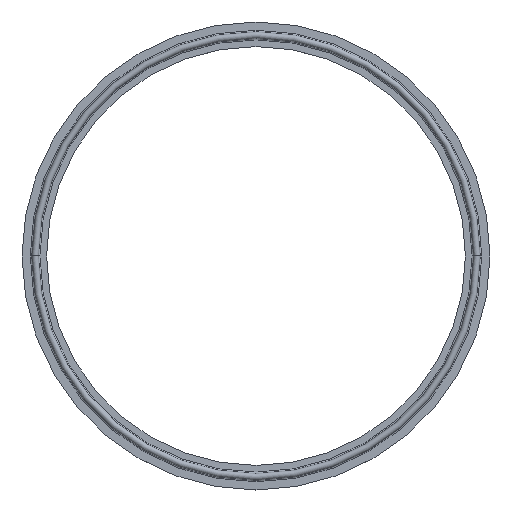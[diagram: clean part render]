
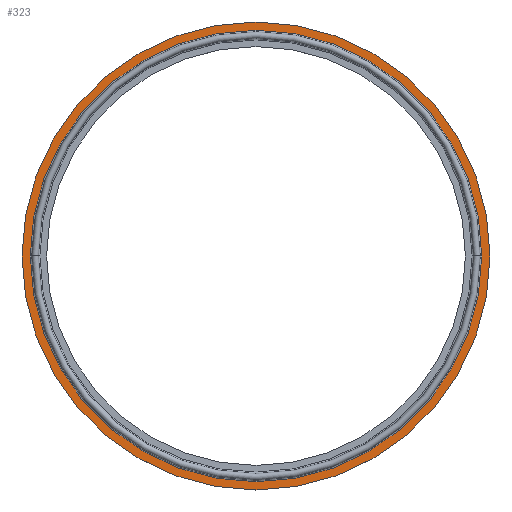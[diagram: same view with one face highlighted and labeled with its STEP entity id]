
A CAD part, top view. The second image highlights one B-rep face of the part: STEP entity #323.
In plain terms, the highlighted planar face has unit normal (0, 0, 1).
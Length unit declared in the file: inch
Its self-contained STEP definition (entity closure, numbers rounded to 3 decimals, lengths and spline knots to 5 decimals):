
#3 = CARTESIAN_POINT ( 'NONE',  ( 0., 0., 0. ) ) ;
#22 = EDGE_CURVE ( 'NONE', #264, #198, #168, .T. ) ;
#43 = EDGE_CURVE ( 'NONE', #198, #264, #190, .T. ) ;
#63 = CARTESIAN_POINT ( 'NONE',  ( 3.271, 0., 0. ) ) ;
#66 = ORIENTED_EDGE ( 'NONE', *, *, #411, .F. ) ;
#116 = CARTESIAN_POINT ( 'NONE',  ( 0., 0., 0. ) ) ;
#123 = CARTESIAN_POINT ( 'NONE',  ( 3.15488, 0., 0. ) ) ;
#125 = DIRECTION ( 'NONE',  ( 1., 0., 0. ) ) ;
#145 = ORIENTED_EDGE ( 'NONE', *, *, #500, .F. ) ;
#165 = CARTESIAN_POINT ( 'NONE',  ( 0., 3.15488, 0. ) ) ;
#168 = CIRCLE ( 'NONE', #317, 3.271 ) ;
#190 = CIRCLE ( 'NONE', #457, 3.271 ) ;
#198 = VERTEX_POINT ( 'NONE', #63 ) ;
#204 = CIRCLE ( 'NONE', #238, 3.15488 ) ;
#215 = DIRECTION ( 'NONE',  ( 0., 0., -1. ) ) ;
#238 = AXIS2_PLACEMENT_3D ( 'NONE', #3, #316, #510 ) ;
#255 = AXIS2_PLACEMENT_3D ( 'NONE', #165, #215, #441 ) ;
#264 = VERTEX_POINT ( 'NONE', #302 ) ;
#287 = DIRECTION ( 'NONE',  ( 0., 0., 1. ) ) ;
#302 = CARTESIAN_POINT ( 'NONE',  ( -3.271, 0., 0. ) ) ;
#312 = CARTESIAN_POINT ( 'NONE',  ( 0., 0., 0. ) ) ;
#314 = CIRCLE ( 'NONE', #372, 3.15488 ) ;
#316 = DIRECTION ( 'NONE',  ( 0., 0., 1. ) ) ;
#317 = AXIS2_PLACEMENT_3D ( 'NONE', #116, #501, #125 ) ;
#323 = ADVANCED_FACE ( 'NONE', ( #535, #490 ), #399, .F. ) ;
#372 = AXIS2_PLACEMENT_3D ( 'NONE', #373, #287, #517 ) ;
#373 = CARTESIAN_POINT ( 'NONE',  ( 0., 0., 0. ) ) ;
#378 = ORIENTED_EDGE ( 'NONE', *, *, #22, .T. ) ;
#399 = PLANE ( 'NONE',  #255 ) ;
#411 = EDGE_CURVE ( 'NONE', #438, #574, #204, .T. ) ;
#414 = DIRECTION ( 'NONE',  ( 0., 0., 1. ) ) ;
#438 = VERTEX_POINT ( 'NONE', #123 ) ;
#441 = DIRECTION ( 'NONE',  ( -1., 0., 0. ) ) ;
#457 = AXIS2_PLACEMENT_3D ( 'NONE', #312, #414, #592 ) ;
#481 = CARTESIAN_POINT ( 'NONE',  ( -3.15488, 0., 0. ) ) ;
#490 = FACE_OUTER_BOUND ( 'NONE', #576, .T. ) ;
#492 = EDGE_LOOP ( 'NONE', ( #66, #145 ) ) ;
#500 = EDGE_CURVE ( 'NONE', #574, #438, #314, .T. ) ;
#501 = DIRECTION ( 'NONE',  ( 0., 0., 1. ) ) ;
#510 = DIRECTION ( 'NONE',  ( 1., 0., 0. ) ) ;
#517 = DIRECTION ( 'NONE',  ( 1., 0., 0. ) ) ;
#535 = FACE_BOUND ( 'NONE', #492, .T. ) ;
#574 = VERTEX_POINT ( 'NONE', #481 ) ;
#576 = EDGE_LOOP ( 'NONE', ( #589, #378 ) ) ;
#589 = ORIENTED_EDGE ( 'NONE', *, *, #43, .T. ) ;
#592 = DIRECTION ( 'NONE',  ( 1., 0., 0. ) ) ;
